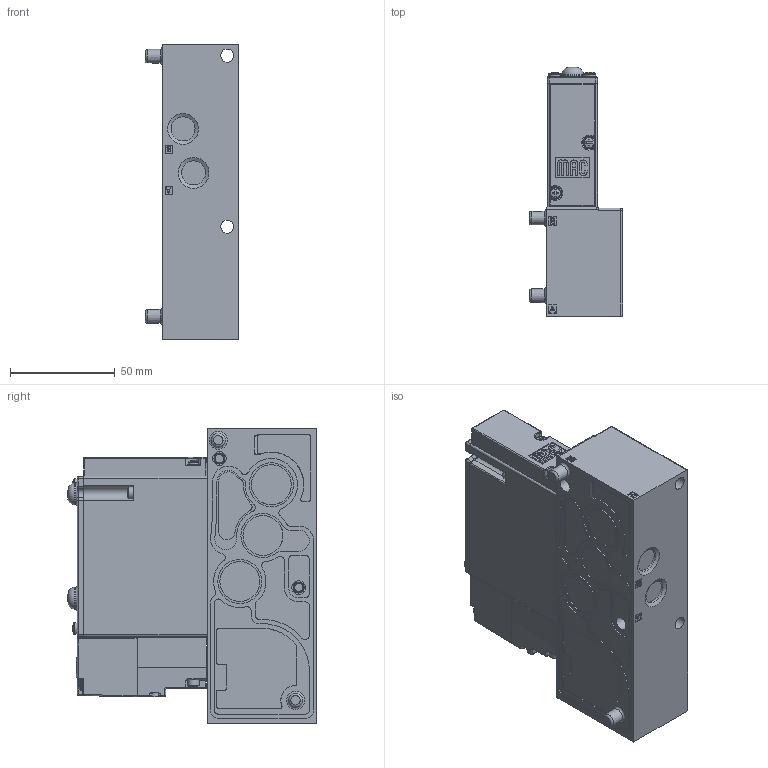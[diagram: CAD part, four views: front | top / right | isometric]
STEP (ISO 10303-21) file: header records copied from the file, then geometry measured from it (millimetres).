
FILE_DESCRIPTION (( 'STEP AP214' ), '1' );
FILE_NAME ('92A-AAA-B4J-DM-DXXP-YZZ.STEP', '2019-07-05T15:01:11', ( 'user' ), ( '' ), 'SwSTEP 2.0', 'SolidWorks 2014', '' );
FILE_SCHEMA (( 'AUTOMOTIVE_DESIGN' ));
Length unit declared in the file: millimetre
Products named in the file (6): 92-OVERRIDE-1; 92-OPERATOR-DXXP-YDM; 92-PILOT-DM; 92-BODY-AAA; 92-BASE-B4J; 92A-AAA-B4J-DM-DXXP-YZZ
Assembly tree (5 placements, depth 2):
  92A-AAA-B4J-DM-DXXP-YZZ
    92-BASE-B4J
    92-BODY-AAA
    92-PILOT-DM
    92-OPERATOR-DXXP-YDM
    92-OVERRIDE-1
Bounding box: 44.5 x 118.6 x 141 mm (x, y, z)
Volume: 409173.8 mm3; surface area: 78835.2 mm2
Topology: 27 solids, 31 shells, 2274 faces, 5820 edges, 3782 vertices
Faces by surface type: plane 1232, cylinder 664, cone 167, bspline 122, torus 49, sphere 40
Full cylindrical faces by diameter (mm): 0.01 x2, 0.72 x1, 0.74 x1, 0.85 x1, 0.95 x2, 1 x1, 2 x2, 2.2 x2, 2.4 x2, 2.5 x2, 2.6 x2, 2.7 x1, 2.79 x4, 3 x10, 3.15 x2, 3.25 x2, 3.3 x4, 3.35 x2, 3.6 x1, 4.775 x2, 5 x35, 5.1 x1, 5.25 x2, 5.5 x8, 5.6 x1, 6.185 x2, 6.22 x1, 6.6 x2, 6.8 x2, 6.92 x1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
Entity records: 100906 total; most frequent: CARTESIAN_POINT 22472, ORIENTED_EDGE 10990, DIRECTION 10833, EDGE_CURVE 5495, AXIS2_PLACEMENT_3D 3687, VERTEX_POINT 3682, LINE 3459, VECTOR 3459
